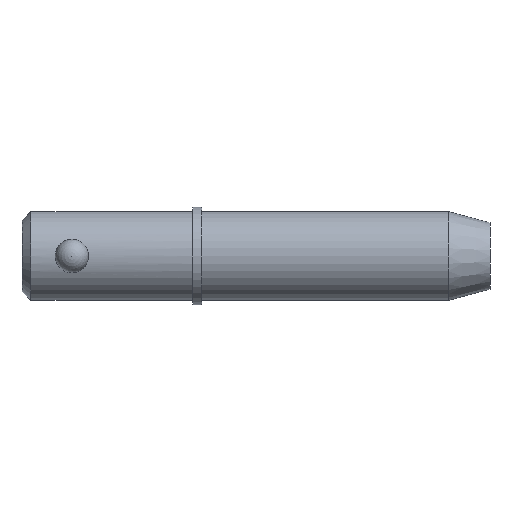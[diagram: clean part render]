
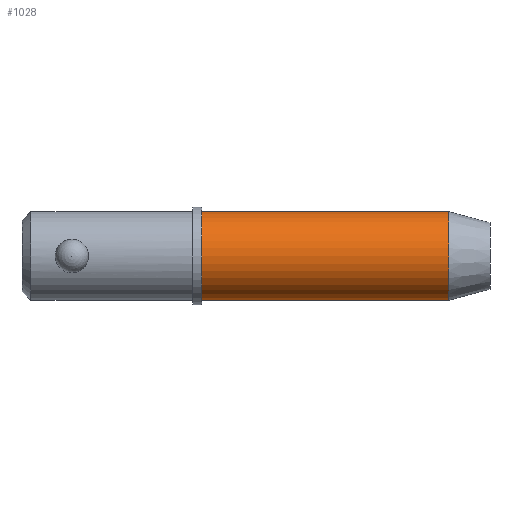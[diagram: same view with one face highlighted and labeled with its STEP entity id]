
A CAD part, front view. The second image highlights one B-rep face of the part: STEP entity #1028.
In plain terms, the highlighted cylindrical face has radius 6.35 mm (diameter 12.7 mm), a partial arc.
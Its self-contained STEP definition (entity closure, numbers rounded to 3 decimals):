
#6 = DIRECTION ( 'NONE',  ( 1., 0., 0. ) ) ;
#19 = CYLINDRICAL_SURFACE ( 'NONE', #646, 6.35 ) ;
#55 = VECTOR ( 'NONE', #857, 1000. ) ;
#82 = VERTEX_POINT ( 'NONE', #645 ) ;
#187 = DIRECTION ( 'NONE',  ( 1., 0., 0. ) ) ;
#259 = VECTOR ( 'NONE', #657, 1000. ) ;
#355 = ORIENTED_EDGE ( 'NONE', *, *, #490, .T. ) ;
#374 = AXIS2_PLACEMENT_3D ( 'NONE', #572, #6, #982 ) ;
#383 = ORIENTED_EDGE ( 'NONE', *, *, #391, .F. ) ;
#391 = EDGE_CURVE ( 'NONE', #721, #620, #523, .T. ) ;
#437 = CARTESIAN_POINT ( 'NONE',  ( 0., 0., 6.35 ) ) ;
#462 = AXIS2_PLACEMENT_3D ( 'NONE', #617, #1034, #869 ) ;
#479 = CIRCLE ( 'NONE', #374, 6.35 ) ;
#490 = EDGE_CURVE ( 'NONE', #538, #82, #828, .T. ) ;
#523 = LINE ( 'NONE', #437, #55 ) ;
#535 = EDGE_CURVE ( 'NONE', #721, #538, #479, .T. ) ;
#538 = VERTEX_POINT ( 'NONE', #973 ) ;
#572 = CARTESIAN_POINT ( 'NONE',  ( 25.7, 0., 0. ) ) ;
#617 = CARTESIAN_POINT ( 'NONE',  ( 61.055, 0., 0. ) ) ;
#620 = VERTEX_POINT ( 'NONE', #670 ) ;
#640 = ORIENTED_EDGE ( 'NONE', *, *, #535, .T. ) ;
#645 = CARTESIAN_POINT ( 'NONE',  ( 61.055, 0., -6.35 ) ) ;
#646 = AXIS2_PLACEMENT_3D ( 'NONE', #836, #187, #907 ) ;
#654 = CARTESIAN_POINT ( 'NONE',  ( 0., 0., -6.35 ) ) ;
#657 = DIRECTION ( 'NONE',  ( 1., 0., 0. ) ) ;
#670 = CARTESIAN_POINT ( 'NONE',  ( 61.055, 0., 6.35 ) ) ;
#703 = CIRCLE ( 'NONE', #462, 6.35 ) ;
#711 = ORIENTED_EDGE ( 'NONE', *, *, #717, .F. ) ;
#717 = EDGE_CURVE ( 'NONE', #620, #82, #703, .T. ) ;
#721 = VERTEX_POINT ( 'NONE', #1038 ) ;
#828 = LINE ( 'NONE', #654, #259 ) ;
#836 = CARTESIAN_POINT ( 'NONE',  ( 0., 0., 0. ) ) ;
#857 = DIRECTION ( 'NONE',  ( 1., 0., 0. ) ) ;
#869 = DIRECTION ( 'NONE',  ( 0., 0., -1. ) ) ;
#903 = FACE_OUTER_BOUND ( 'NONE', #1027, .T. ) ;
#907 = DIRECTION ( 'NONE',  ( 0., 0., -1. ) ) ;
#973 = CARTESIAN_POINT ( 'NONE',  ( 25.7, 0., -6.35 ) ) ;
#982 = DIRECTION ( 'NONE',  ( 0., 0., -1. ) ) ;
#1027 = EDGE_LOOP ( 'NONE', ( #383, #640, #355, #711 ) ) ;
#1028 = ADVANCED_FACE ( 'NONE', ( #903 ), #19, .T. ) ;
#1034 = DIRECTION ( 'NONE',  ( 1., 0., 0. ) ) ;
#1038 = CARTESIAN_POINT ( 'NONE',  ( 25.7, 0., 6.35 ) ) ;
